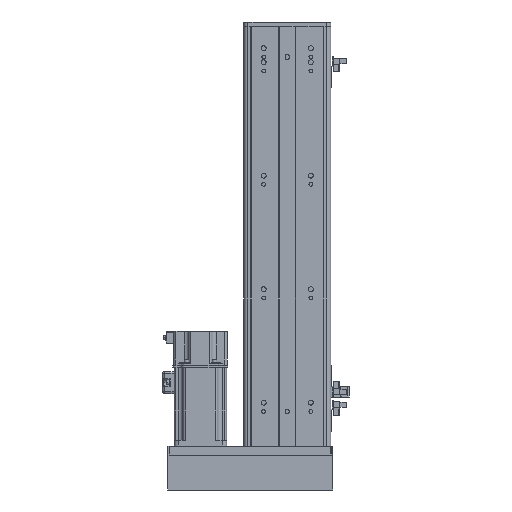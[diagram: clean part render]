
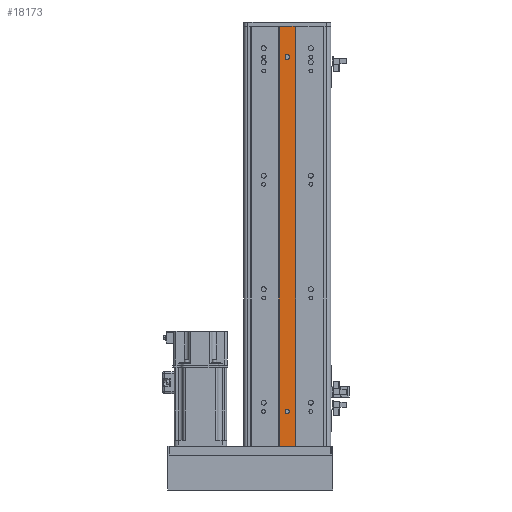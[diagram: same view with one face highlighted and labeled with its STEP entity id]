
A CAD part, front view. The second image highlights one B-rep face of the part: STEP entity #18173.
In plain terms, the highlighted planar face has unit normal (0, -1, 0).
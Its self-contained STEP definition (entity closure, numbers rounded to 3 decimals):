
#1989 = CIRCLE ( 'NONE', #34518, 2.5 ) ;
#2035 = CARTESIAN_POINT ( 'NONE',  ( 0., 1.309, 170. ) ) ;
#2620 = CARTESIAN_POINT ( 'NONE',  ( -9., 1.309, 611. ) ) ;
#3204 = CARTESIAN_POINT ( 'NONE',  ( 2.5, 1.309, 575.5 ) ) ;
#4319 = EDGE_CURVE ( 'NONE', #61618, #10431, #4391, .T. ) ;
#4391 = LINE ( 'NONE', #38176, #34258 ) ;
#4972 = DIRECTION ( 'NONE',  ( 0., 0., 1. ) ) ;
#6812 = CARTESIAN_POINT ( 'NONE',  ( -9., 1.309, 130. ) ) ;
#6998 = CARTESIAN_POINT ( 'NONE',  ( 0., 1.309, 576.5 ) ) ;
#7298 = CIRCLE ( 'NONE', #12617, 2.5 ) ;
#8071 = EDGE_CURVE ( 'NONE', #24125, #52237, #7298, .T. ) ;
#8985 = ORIENTED_EDGE ( 'NONE', *, *, #64625, .F. ) ;
#10416 = EDGE_CURVE ( 'NONE', #54439, #35585, #27635, .T. ) ;
#10431 = VERTEX_POINT ( 'NONE', #3204 ) ;
#11760 = VECTOR ( 'NONE', #61516, 1000. ) ;
#12617 = AXIS2_PLACEMENT_3D ( 'NONE', #27870, #64333, #13725 ) ;
#12776 = EDGE_CURVE ( 'NONE', #10431, #25369, #1989, .T. ) ;
#12876 = EDGE_CURVE ( 'NONE', #19719, #35585, #45098, .T. ) ;
#13725 = DIRECTION ( 'NONE',  ( 0., 0., 1. ) ) ;
#14262 = CARTESIAN_POINT ( 'NONE',  ( -2.5, 1.309, 575.5 ) ) ;
#14899 = VERTEX_POINT ( 'NONE', #20175 ) ;
#16380 = CARTESIAN_POINT ( 'NONE',  ( 9., 1.309, 130. ) ) ;
#16653 = PLANE ( 'NONE',  #65028 ) ;
#16941 = DIRECTION ( 'NONE',  ( 0., 0., 1. ) ) ;
#17176 = CARTESIAN_POINT ( 'NONE',  ( 0., 1.309, 575.5 ) ) ;
#17557 = ORIENTED_EDGE ( 'NONE', *, *, #12876, .F. ) ;
#18173 = ADVANCED_FACE ( 'NONE', ( #41010, #43449, #39340 ), #16653, .F. ) ;
#18513 = DIRECTION ( 'NONE',  ( 0., 1., 0. ) ) ;
#18910 = ORIENTED_EDGE ( 'NONE', *, *, #10416, .T. ) ;
#19192 = DIRECTION ( 'NONE',  ( 0., 0., -1. ) ) ;
#19203 = LINE ( 'NONE', #46148, #11760 ) ;
#19719 = VERTEX_POINT ( 'NONE', #16380 ) ;
#20175 = CARTESIAN_POINT ( 'NONE',  ( -2.5, 1.309, 576.5 ) ) ;
#20998 = VECTOR ( 'NONE', #19192, 1000. ) ;
#21932 = VECTOR ( 'NONE', #32730, 1000. ) ;
#22014 = CARTESIAN_POINT ( 'NONE',  ( 0., 1.309, 611. ) ) ;
#22316 = CARTESIAN_POINT ( 'NONE',  ( 2.5, 1.309, 576.5 ) ) ;
#22423 = LINE ( 'NONE', #52782, #65625 ) ;
#22444 = EDGE_LOOP ( 'NONE', ( #17557, #8985, #23548, #18910 ) ) ;
#22462 = DIRECTION ( 'NONE',  ( 0., 1., 0. ) ) ;
#23548 = ORIENTED_EDGE ( 'NONE', *, *, #61730, .F. ) ;
#23904 = DIRECTION ( 'NONE',  ( -1., 0., 0. ) ) ;
#24107 = CARTESIAN_POINT ( 'NONE',  ( -9., 1.309, 611. ) ) ;
#24125 = VERTEX_POINT ( 'NONE', #41260 ) ;
#25369 = VERTEX_POINT ( 'NONE', #14262 ) ;
#25442 = VERTEX_POINT ( 'NONE', #31630 ) ;
#27383 = DIRECTION ( 'NONE',  ( 0., 0., 1. ) ) ;
#27569 = EDGE_CURVE ( 'NONE', #14899, #61618, #33655, .T. ) ;
#27635 = LINE ( 'NONE', #24107, #20998 ) ;
#27870 = CARTESIAN_POINT ( 'NONE',  ( 0., 1.309, 170. ) ) ;
#28195 = EDGE_LOOP ( 'NONE', ( #66616, #54953 ) ) ;
#28249 = DIRECTION ( 'NONE',  ( 0., 0., 1. ) ) ;
#28366 = CARTESIAN_POINT ( 'NONE',  ( -9., 1.309, 611. ) ) ;
#28735 = CARTESIAN_POINT ( 'NONE',  ( 0., 1.309, 130. ) ) ;
#31182 = ORIENTED_EDGE ( 'NONE', *, *, #50977, .T. ) ;
#31630 = CARTESIAN_POINT ( 'NONE',  ( 9., 1.309, 611. ) ) ;
#32399 = DIRECTION ( 'NONE',  ( 0., 0., -1. ) ) ;
#32730 = DIRECTION ( 'NONE',  ( 1., 0., 0. ) ) ;
#33655 = CIRCLE ( 'NONE', #43996, 2.5 ) ;
#34258 = VECTOR ( 'NONE', #32399, 1000. ) ;
#34518 = AXIS2_PLACEMENT_3D ( 'NONE', #17176, #38499, #16941 ) ;
#35585 = VERTEX_POINT ( 'NONE', #6812 ) ;
#36010 = LINE ( 'NONE', #2620, #21932 ) ;
#37430 = CARTESIAN_POINT ( 'NONE',  ( -2.5, 1.309, 170. ) ) ;
#38176 = CARTESIAN_POINT ( 'NONE',  ( 2.5, 1.309, 611. ) ) ;
#38499 = DIRECTION ( 'NONE',  ( 0., 1., 0. ) ) ;
#39340 = FACE_OUTER_BOUND ( 'NONE', #22444, .T. ) ;
#41010 = FACE_BOUND ( 'NONE', #56189, .T. ) ;
#41260 = CARTESIAN_POINT ( 'NONE',  ( 2.5, 1.309, 170. ) ) ;
#43449 = FACE_BOUND ( 'NONE', #28195, .T. ) ;
#43996 = AXIS2_PLACEMENT_3D ( 'NONE', #6998, #59439, #27383 ) ;
#45098 = LINE ( 'NONE', #28735, #57625 ) ;
#46148 = CARTESIAN_POINT ( 'NONE',  ( 9., 1.309, 611. ) ) ;
#50178 = ORIENTED_EDGE ( 'NONE', *, *, #12776, .T. ) ;
#50977 = EDGE_CURVE ( 'NONE', #25369, #14899, #22423, .T. ) ;
#52237 = VERTEX_POINT ( 'NONE', #37430 ) ;
#52782 = CARTESIAN_POINT ( 'NONE',  ( -2.5, 1.309, 611. ) ) ;
#53809 = ORIENTED_EDGE ( 'NONE', *, *, #27569, .T. ) ;
#54422 = CIRCLE ( 'NONE', #55930, 2.5 ) ;
#54439 = VERTEX_POINT ( 'NONE', #28366 ) ;
#54953 = ORIENTED_EDGE ( 'NONE', *, *, #68654, .T. ) ;
#55930 = AXIS2_PLACEMENT_3D ( 'NONE', #2035, #18513, #28249 ) ;
#56189 = EDGE_LOOP ( 'NONE', ( #31182, #53809, #58633, #50178 ) ) ;
#57625 = VECTOR ( 'NONE', #23904, 1000. ) ;
#58633 = ORIENTED_EDGE ( 'NONE', *, *, #4319, .T. ) ;
#59129 = DIRECTION ( 'NONE',  ( 0., 0., 1. ) ) ;
#59439 = DIRECTION ( 'NONE',  ( 0., 1., 0. ) ) ;
#61516 = DIRECTION ( 'NONE',  ( 0., 0., -1. ) ) ;
#61618 = VERTEX_POINT ( 'NONE', #22316 ) ;
#61730 = EDGE_CURVE ( 'NONE', #54439, #25442, #36010, .T. ) ;
#64333 = DIRECTION ( 'NONE',  ( 0., 1., 0. ) ) ;
#64625 = EDGE_CURVE ( 'NONE', #25442, #19719, #19203, .T. ) ;
#65028 = AXIS2_PLACEMENT_3D ( 'NONE', #22014, #22462, #59129 ) ;
#65625 = VECTOR ( 'NONE', #4972, 1000. ) ;
#66616 = ORIENTED_EDGE ( 'NONE', *, *, #8071, .T. ) ;
#68654 = EDGE_CURVE ( 'NONE', #52237, #24125, #54422, .T. ) ;
